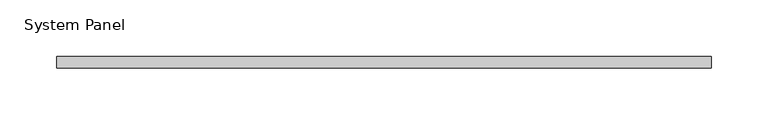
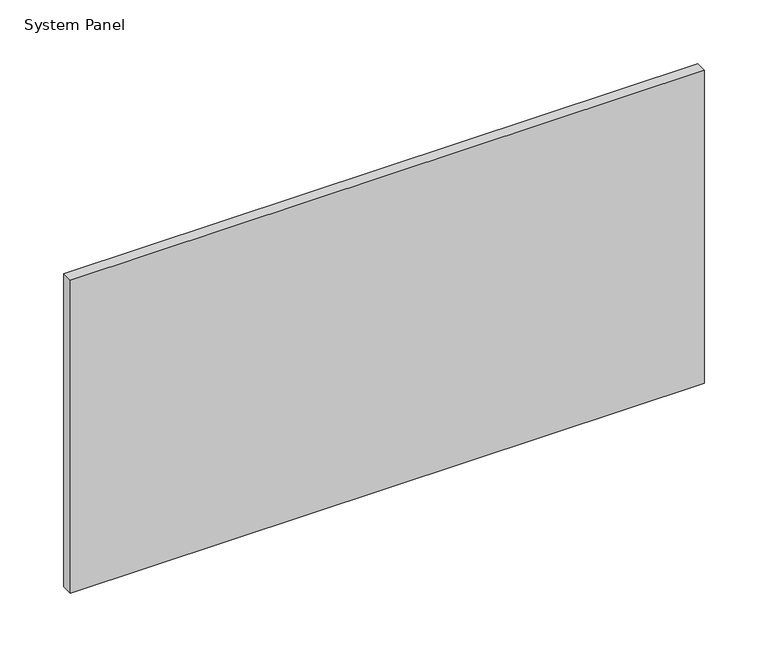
"""IFC4 building model written with IfcOpenShell, lengths in millimetres: plate geometry, System Panel : стекло_смещение_0."""

from ifc_helpers import new_model, si_unit, origin, origin_with_axes, place, context, project, spatial, polyline, outline, extrude, source, transform, mapped, element, save


def system_panel_d54dad14(model_context):
    return source(origin(), model_context, "Body", "SweptSolid", [
        extrude(outline(polyline([(287.5, -5.0), (-287.5, -5.0), (-287.5, 5.0), (287.5, 5.0), (287.5, -5.0)])), origin_with_axes(), (0.0, 0.0, 1.0), 300.0),
    ])


if __name__ == "__main__":
    model = new_model("IFC4")
    model_context = context("Model", 3, world=origin())
    ifc_project = project(units=[si_unit("LENGTHUNIT", "METRE", prefix="MILLI")], contexts=[model_context])
    site = spatial("IfcSite", under=ifc_project)
    building = spatial("IfcBuilding", under=site)
    placement = place(None, origin())
    system_panel_shape = system_panel_d54dad14(model_context)
    element("IfcPlate", 1, ObjectType="System Panel : стекло_смещение_0", at=placement, inside=building, context=model_context, shape_type="MappedRepresentation", body=[
        mapped(system_panel_shape, transform((0.0, 0.0, 0.0), x_axis=(1.0, 0.0, 0.0), y_axis=(0.0, 1.0, 0.0), z_axis=(0.0, 0.0, 1.0))),
    ])
    save(model, "model.ifc")
